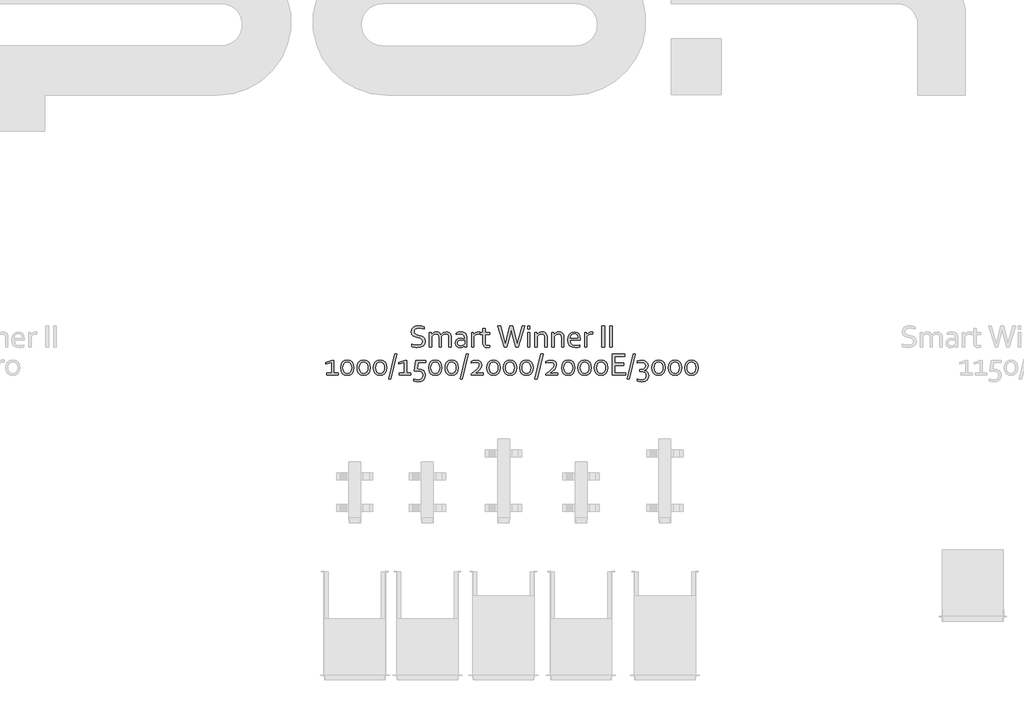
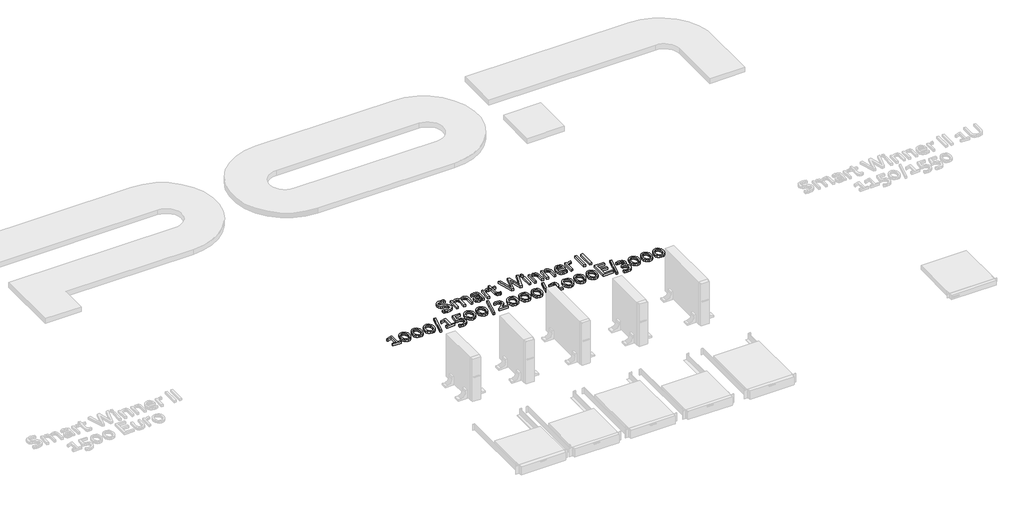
# One storey, part 12 of 14: 1 proxy.
"""IFC4 building model written with IfcOpenShell, lengths in millimetres."""

from ifc_helpers import new_model, si_unit, origin, origin_with_axes, place, context, project, spatial, polyline, outline, extrude, element, save

model = new_model("IFC4")

# Units and contexts
model_context = context("Model", 3, world=origin())
ifc_project = project(units=[si_unit("LENGTHUNIT", "METRE", prefix="MILLI")], contexts=[model_context])

# Site, building, storey
site = spatial("IfcSite", under=ifc_project)
building = spatial("IfcBuilding", under=site)
storey = spatial("IfcBuildingStorey", under=building, Name="Этаж 01", Elevation=0.0)

# Proxy
placement = place(None, origin())
element("IfcBuildingElementProxy", 1, Name="150 мм Corbel", ObjectType="150 мм Corbel", at=placement, inside=storey, context=model_context, shape_type="SweptSolid", body=[
    extrude(outline(polyline([(8243.4945132, 936.8855088), (8246.2289116, 925.8822898), (8253.5570992, 918.7072285), (8264.2321904, 914.0696889), (8276.9197988, 910.6790349), (8294.3980731, 905.9321193), (8309.6888288, 898.757058), (8320.5389215, 886.8350812), (8324.695207, 867.9786701), (8320.2107937, 847.722247), (8307.8294379, 833.7002522), (8289.2792794, 825.5626827), (8265.938455, 822.9157851), (8254.0164781, 823.6376662), (8242.3570035, 825.5845579), (8232.3162927, 828.3845818), (8225.2506073, 831.4908583), (8225.2506073, 848.1160004), (8234.3288099, 844.681596), (8244.763274, 842.0346984), (8255.6352419, 840.3284338), (8265.938455, 839.7159286), (8280.922958, 841.050315), (8293.4136897, 845.5128531), (8301.9450126, 854.0223008), (8305.0950395, 867.5411663), (8302.2950156, 878.7193868), (8294.8355769, 886.0038241), (8284.0729849, 890.6851141), (8271.2322502, 894.0976432), (8253.8196014, 898.6476821), (8238.6600969, 905.7133675), (8227.9412553, 917.3509669), (8223.8943457, 935.5292472), (8228.138132, 955.3481665), (8239.6226051, 969.0857839), (8256.1821216, 977.1139775), (8276.0447913, 979.7171247), (8298.4012323, 977.4202301), (8317.3888945, 971.4483041), (8317.3888945, 954.5169094), (8298.1606053, 960.5107106), (8276.9197988, 962.9169812), (8262.1102973, 961.0794655), (8251.6977083, 955.8512958), (8245.5289056, 947.6262256), (8243.4945132, 936.8855088)])), origin_with_axes(), (0.0, 0.0, 1.0), 20.0),
    extrude(outline(polyline([(8439.4961878, 825.715809), (8422.6960443, 825.715809), (8422.6960443, 894.7976492), (8421.1647812, 906.7196261), (8416.7022431, 914.8134452), (8409.7240584, 919.4509848), (8400.6458559, 920.9166224), (8383.4300838, 915.6884527), (8369.4955897, 901.3164549), (8369.4955897, 825.715809), (8352.6954462, 825.715809), (8352.6954462, 932.116718), (8366.126811, 932.116718), (8369.4518394, 917.3290917), (8376.1456466, 924.1979004), (8383.7363364, 929.8198234), (8392.9457901, 933.5823556), (8403.9271339, 934.916742), (8414.7772266, 933.489386), (8423.6148021, 929.2073182), (8435.6899053, 913.6540603), (8452.3806729, 929.2729438), (8473.6652297, 934.916742), (8485.6090818, 933.3417285), (8497.2029308, 927.5666792), (8505.996756, 915.9728301), (8509.4967859, 896.9414175), (8509.4967859, 825.715809), (8492.6966423, 825.715809), (8492.6966423, 894.7976492), (8491.1653793, 906.7196261), (8486.7247163, 914.8134452), (8479.7684069, 919.4509848), (8470.6902043, 920.9166224), (8453.4525571, 915.6884527), (8439.4961878, 901.3164549), (8439.4961878, 825.715809)])), origin_with_axes(), (0.0, 0.0, 1.0), 20.0),
    extrude(outline(polyline([(8605.2226037, 837.4846595), (8599.4256792, 832.1689891), (8592.0099909, 827.4439487), (8582.8224124, 824.1407955), (8572.1910715, 822.9157851), (8558.1690767, 825.1689293), (8547.2096081, 831.7971109), (8540.056422, 842.450327), (8537.4970251, 856.6910736), (8540.3407994, 870.6911932), (8548.3033674, 881.1694078), (8560.6190977, 887.7975894), (8576.5223585, 890.1163592), (8591.7693638, 888.6288465), (8604.2600955, 885.2600677), (8604.6975993, 892.8726328), (8604.1288444, 901.207079), (8602.203828, 907.5727583), (8592.9287487, 917.132215), (8575.6473511, 920.9166224), (8560.4440962, 919.4291096), (8546.2908502, 915.3165745), (8546.2908502, 929.0104415), (8552.6127793, 931.3948369), (8560.2909699, 933.2979781), (8568.8004176, 934.5011134), (8577.7911194, 934.916742), (8592.4256194, 933.489386), (8604.0413437, 929.2073182), (8612.7039177, 922.5736678), (8618.478967, 914.091564), (8620.7977368, 906.1946216), (8621.4977428, 896.7226656), (8621.4977428, 825.715809), (8607.1038698, 825.715809), (8605.2226037, 837.4846595)]), holes=[polyline([(8604.6975993, 872.1349556), (8593.081875, 874.7381028), (8578.3161239, 876.1162396), (8560.662848, 871.3474488), (8555.8885885, 865.2989597), (8554.2971686, 856.6910736), (8555.8940573, 847.9409989), (8560.2690947, 841.750321), (8566.8535259, 838.1190399), (8574.9910955, 836.9159047), (8585.5786859, 838.5565437), (8594.2850103, 842.4722021), (8600.7600656, 847.022241), (8604.6975993, 850.5660213), (8604.6975993, 872.1349556)])]), origin_with_axes(), (0.0, 0.0, 1.0), 20.0),
    extrude(outline(polyline([(8712.8922737, 920.9166224), (8699.4609089, 919.7572375), (8688.3045636, 916.2353324), (8678.8982332, 910.3946575), (8671.8981734, 902.1914624), (8671.8981734, 825.715809), (8655.0980299, 825.715809), (8655.0980299, 932.116718), (8668.0918909, 932.116718), (8671.3294186, 915.1853234), (8677.9794754, 922.9291396), (8686.4451727, 929.2073182), (8696.7702609, 933.4073541), (8708.5609867, 934.916742), (8710.8360061, 934.8729916), (8712.8922737, 934.7417405), (8712.8922737, 920.9166224)])), origin_with_axes(), (0.0, 0.0, 1.0), 20.0),
    extrude(outline(polyline([(8786.4804024, 825.3220556), (8779.6553441, 823.7470422), (8768.6740002, 822.9157851), (8754.1926265, 825.015803), (8744.1519157, 831.0096042), (8738.2456153, 840.4378098), (8736.2987236, 852.75354), (8736.2987236, 918.1165984), (8715.7797983, 918.1165984), (8715.7797983, 932.116718), (8736.2987236, 932.116718), (8736.2987236, 960.1169573), (8753.0988672, 960.1169573), (8753.0988672, 932.116718), (8784.9053889, 932.116718), (8784.9053889, 918.1165984), (8753.0988672, 918.1165984), (8753.0988672, 854.5035549), (8754.1488761, 847.4816199), (8757.4957797, 841.9034473), (8763.380205, 838.2284159), (8772.042779, 836.9159047), (8779.3709666, 837.4846595), (8786.4804024, 838.9284219), (8786.4804024, 825.3220556)])), origin_with_axes(), (0.0, 0.0, 1.0), 20.0),
    extrude(outline(polyline([(8939.2567077, 951.9356374), (8930.5941337, 915.5353264), (8907.1439333, 825.715809), (8888.4187733, 825.715809), (8842.6996327, 976.9171008), (8862.2998002, 976.9171008), (8886.975011, 888.1913428), (8896.9938466, 849.7785146), (8902.2657666, 870.2318143), (8906.8814311, 887.9725909), (8929.5003743, 976.9171008), (8949.1005418, 976.9171008), (8971.1507302, 887.9725909), (8980.3383087, 849.7785146), (8991.0571503, 888.1913428), (9016.3011159, 976.9171008), (9035.9012834, 976.9171008), (8989.4821368, 825.715809), (8970.7569768, 825.715809), (8947.7880306, 915.5353264), (8939.2567077, 951.9356374)])), origin_with_axes(), (0.0, 0.0, 1.0), 20.0),
    extrude(outline(polyline([(9055.5014509, 957.3169334), (9055.5014509, 976.9171008), (9072.3015944, 976.9171008), (9072.3015944, 957.3169334), (9055.5014509, 957.3169334)])), origin_with_axes(), (0.0, 0.0, 1.0), 20.0),
    extrude(outline(polyline([(9055.5014509, 825.715809), (9055.5014509, 932.116718), (9072.3015944, 932.116718), (9072.3015944, 825.715809), (9055.5014509, 825.715809)])), origin_with_axes(), (0.0, 0.0, 1.0), 20.0),
    extrude(outline(polyline([(9125.4145482, 917.3290917), (9132.1302306, 924.1979004), (9139.9834227, 929.8198234), (9149.499129, 933.5823556), (9160.7648502, 934.916742), (9174.3712165, 932.9042248), (9185.3744355, 926.4072943), (9192.7682486, 914.7040693), (9195.502647, 896.9414175), (9195.502647, 825.715809), (9178.7025035, 825.715809), (9178.7025035, 894.7976492), (9177.3571795, 906.7579076), (9173.3212075, 914.8134452), (9166.714901, 919.3908281), (9157.6585737, 920.9166224), (9140.1146738, 915.6884527), (9125.5020489, 901.3164549), (9125.5020489, 825.715809), (9108.7019054, 825.715809), (9108.7019054, 932.116718), (9122.0457694, 932.116718), (9125.4145482, 917.3290917)])), origin_with_axes(), (0.0, 0.0, 1.0), 20.0),
    extrude(outline(polyline([(9245.8155769, 917.3290917), (9252.5312592, 924.1979004), (9260.3844513, 929.8198234), (9269.9001576, 933.5823556), (9281.1658789, 934.916742), (9294.7722451, 932.9042248), (9305.7754641, 926.4072943), (9313.1692773, 914.7040693), (9315.9036757, 896.9414175), (9315.9036757, 825.715809), (9299.1035321, 825.715809), (9299.1035321, 894.7976492), (9297.7582082, 906.7579076), (9293.7222362, 914.8134452), (9287.1159297, 919.3908281), (9278.0596023, 920.9166224), (9260.5157025, 915.6884527), (9245.9030776, 901.3164549), (9245.9030776, 825.715809), (9229.1029341, 825.715809), (9229.1029341, 932.116718), (9242.4467981, 932.116718), (9245.8155769, 917.3290917)])), origin_with_axes(), (0.0, 0.0, 1.0), 20.0),
    extrude(outline(polyline([(9399.2481378, 836.9159047), (9415.0201475, 838.3815422), (9429.2171438, 842.5159525), (9429.2171438, 828.6908344), (9415.0857731, 824.4689233), (9397.0168687, 822.9157851), (9375.5573104, 825.8251849), (9358.5384149, 835.2315153), (9347.7320726, 852.2066603), (9343.9039149, 877.4725012), (9347.8851989, 902.7164669), (9358.4727894, 920.5666194), (9373.6979195, 931.3292113), (9391.6793231, 934.916742), (9408.173214, 931.9854669), (9421.4733277, 922.7541381), (9430.3765287, 906.5008742), (9433.6359316, 882.6350453), (9433.6359316, 880.381901), (9433.5046804, 876.1162396), (9359.7853006, 876.1162396), (9362.869702, 857.9160841), (9371.2916489, 845.7972306), (9383.8042558, 839.0377978), (9399.2481378, 836.9159047)]), holes=[polyline([(9390.9355667, 920.9166224), (9379.4292184, 918.4884766), (9370.1541392, 911.8821702), (9363.7228342, 902.1039616), (9360.7040584, 890.1163592), (9416.7045369, 890.1163592), (9415.0201475, 902.2133376), (9410.0544801, 911.9915461), (9402.0044113, 918.532227), (9390.9355667, 920.9166224)])]), origin_with_axes(), (0.0, 0.0, 1.0), 20.0),
    extrude(outline(polyline([(9522.0991874, 920.9166224), (9508.6678226, 919.7572375), (9497.5114773, 916.2353324), (9488.1051469, 910.3946575), (9481.1050871, 902.1914624), (9481.1050871, 825.715809), (9464.3049436, 825.715809), (9464.3049436, 932.116718), (9477.2988046, 932.116718), (9480.5363323, 915.1853234), (9487.1863891, 922.9291396), (9495.6520864, 929.2073182), (9505.9771746, 933.4073541), (9517.7679004, 934.916742), (9520.0429198, 934.8729916), (9522.0991874, 934.7417405), (9522.0991874, 920.9166224)])), origin_with_axes(), (0.0, 0.0, 1.0), 20.0),
    extrude(outline(polyline([(9587.5059962, 825.715809), (9587.5059962, 976.9171008), (9607.1061637, 976.9171008), (9607.1061637, 825.715809), (9587.5059962, 825.715809)])), origin_with_axes(), (0.0, 0.0, 1.0), 20.0),
    extrude(outline(polyline([(9643.5064747, 825.715809), (9643.5064747, 976.9171008), (9663.1066421, 976.9171008), (9663.1066421, 825.715809), (9643.5064747, 825.715809)])), origin_with_axes(), (0.0, 0.0, 1.0), 20.0),
    extrude(outline(polyline([(7652.6894655, 639.315498), (7652.6894655, 717.7161678), (7612.2203697, 703.7160482), (7612.2203697, 717.7161678), (7654.9644849, 731.7162874), (7669.489609, 731.7162874), (7669.489609, 639.315498), (7698.8461098, 639.315498), (7698.8461098, 625.3153784), (7616.9016597, 625.3153784), (7616.9016597, 639.315498), (7652.6894655, 639.315498)])), origin_with_axes(), (0.0, 0.0, 1.0), 20.0),
    extrude(outline(polyline([(7812.2908291, 678.3845818), (7809.0751766, 656.290643), (7799.7344718, 638.5498664), (7784.8374695, 626.7810159), (7764.7779231, 622.5153544), (7744.3246234, 626.7810159), (7729.3619955, 638.5498664), (7720.1962922, 656.290643), (7717.0900157, 678.3845818), (7720.3056682, 700.6316469), (7729.646373, 718.438049), (7744.6090008, 730.2506499), (7764.6904224, 734.5163114), (7785.0562214, 730.2506499), (7800.0188492, 718.438049), (7809.1845525, 700.6316469), (7812.2908291, 678.3845818)]), holes=[polyline([(7795.4906855, 678.3845818), (7793.3031669, 696.0378576), (7787.112489, 709.2723457), (7777.4436563, 717.6067919), (7764.6904224, 720.5161917), (7751.9371884, 717.6067919), (7742.2246054, 709.2723457), (7736.0339276, 696.0378576), (7733.8901592, 678.3845818), (7736.0776779, 660.8844323), (7742.2683558, 647.6936946), (7752.002814, 639.4248739), (7764.8216735, 636.5154741), (7777.5530323, 639.4248739), (7787.2218649, 647.6936946), (7793.3469172, 660.8844323), (7795.4906855, 678.3845818)])]), origin_with_axes(), (0.0, 0.0, 1.0), 20.0),
    extrude(outline(polyline([(7929.8918338, 678.3845818), (7926.6761814, 656.290643), (7917.3354766, 638.5498664), (7902.4384743, 626.7810159), (7882.3789279, 622.5153544), (7861.9256281, 626.7810159), (7846.9630003, 638.5498664), (7837.797297, 656.290643), (7834.6910205, 678.3845818), (7837.9066729, 700.6316469), (7847.2473777, 718.438049), (7862.2100056, 730.2506499), (7882.2914272, 734.5163114), (7902.6572262, 730.2506499), (7917.619854, 718.438049), (7926.7855573, 700.6316469), (7929.8918338, 678.3845818)]), holes=[polyline([(7913.0916903, 678.3845818), (7910.9041716, 696.0378576), (7904.7134937, 709.2723457), (7895.0446611, 717.6067919), (7882.2914272, 720.5161917), (7869.5381932, 717.6067919), (7859.8256102, 709.2723457), (7853.6349323, 696.0378576), (7851.491164, 678.3845818), (7853.6786827, 660.8844323), (7859.8693606, 647.6936946), (7869.6038187, 639.4248739), (7882.4226783, 636.5154741), (7895.154037, 639.4248739), (7904.8228697, 647.6936946), (7910.947922, 660.8844323), (7913.0916903, 678.3845818)])]), origin_with_axes(), (0.0, 0.0, 1.0), 20.0),
    extrude(outline(polyline([(8047.4928386, 678.3845818), (8044.2771861, 656.290643), (8034.9364813, 638.5498664), (8020.039479, 626.7810159), (7999.9799327, 622.5153544), (7979.5266329, 626.7810159), (7964.5640051, 638.5498664), (7955.3983018, 656.290643), (7952.2920252, 678.3845818), (7955.5076777, 700.6316469), (7964.8483825, 718.438049), (7979.8110103, 730.2506499), (7999.8924319, 734.5163114), (8020.2582309, 730.2506499), (8035.2208588, 718.438049), (8044.3865621, 700.6316469), (8047.4928386, 678.3845818)]), holes=[polyline([(8030.6926951, 678.3845818), (8028.5051764, 696.0378576), (8022.3144985, 709.2723457), (8012.6456659, 717.6067919), (7999.8924319, 720.5161917), (7987.139198, 717.6067919), (7977.426615, 709.2723457), (7971.2359371, 696.0378576), (7969.0921688, 678.3845818), (7971.2796875, 660.8844323), (7977.4703653, 647.6936946), (7987.2048235, 639.4248739), (8000.023683, 636.5154741), (8012.7550418, 639.4248739), (8022.4238744, 647.6936946), (8028.5489267, 660.8844323), (8030.6926951, 678.3845818)])]), origin_with_axes(), (0.0, 0.0, 1.0), 20.0),
    extrude(outline(polyline([(8060.7054515, 597.3151391), (8103.3183156, 776.5166702), (8119.8997072, 776.5166702), (8077.2868432, 597.3151391), (8060.7054515, 597.3151391)])), origin_with_axes(), (0.0, 0.0, 1.0), 20.0),
    extrude(outline(polyline([(8173.4939151, 639.315498), (8173.4939151, 717.7161678), (8133.0248194, 703.7160482), (8133.0248194, 717.7161678), (8175.7689346, 731.7162874), (8190.2940587, 731.7162874), (8190.2940587, 639.315498), (8219.6505595, 639.315498), (8219.6505595, 625.3153784), (8137.7061094, 625.3153784), (8137.7061094, 639.315498), (8173.4939151, 639.315498)])), origin_with_axes(), (0.0, 0.0, 1.0), 20.0),
    extrude(outline(polyline([(8324.695207, 625.4466295), (8321.2170523, 606.3933417), (8311.0232152, 591.2775876), (8294.0918205, 581.3025023), (8270.8822472, 577.7149717), (8254.6289833, 579.2024844), (8240.7382397, 583.7525233), (8240.7382397, 597.3151391), (8256.4227487, 592.8744762), (8270.0947405, 591.7150913), (8286.6980073, 594.3401137), (8298.4668579, 601.4932998), (8305.5325432, 612.0371399), (8307.8950634, 624.6591228), (8305.4012921, 638.5936168), (8297.5918504, 648.3718254), (8283.9417338, 654.1906251), (8263.838437, 656.1156415), (8244.0632681, 654.9781318), (8254.6946089, 731.7162874), (8325.7452159, 731.7162874), (8325.7452159, 717.7161678), (8271.4947524, 717.7161678), (8265.238449, 669.8970093), (8271.4947524, 670.1157611), (8294.2449468, 667.0969853), (8310.9357144, 658.3687858), (8321.1951771, 644.3686662), (8324.695207, 625.4466295)])), origin_with_axes(), (0.0, 0.0, 1.0), 20.0),
    extrude(outline(polyline([(8442.2962117, 678.3845818), (8439.0805593, 656.290643), (8429.7398545, 638.5498664), (8414.8428522, 626.7810159), (8394.7833058, 622.5153544), (8374.330006, 626.7810159), (8359.3673782, 638.5498664), (8350.2016749, 656.290643), (8347.0953984, 678.3845818), (8350.3110508, 700.6316469), (8359.6517556, 718.438049), (8374.6143835, 730.2506499), (8394.695805, 734.5163114), (8415.061604, 730.2506499), (8430.0242319, 718.438049), (8439.1899352, 700.6316469), (8442.2962117, 678.3845818)]), holes=[polyline([(8425.4960682, 678.3845818), (8423.3085495, 696.0378576), (8417.1178716, 709.2723457), (8407.449039, 717.6067919), (8394.695805, 720.5161917), (8381.9425711, 717.6067919), (8372.2299881, 709.2723457), (8366.0393102, 696.0378576), (8363.8955419, 678.3845818), (8366.0830606, 660.8844323), (8372.2737385, 647.6936946), (8382.0081966, 639.4248739), (8394.8270562, 636.5154741), (8407.5584149, 639.4248739), (8417.2272475, 647.6936946), (8423.3522999, 660.8844323), (8425.4960682, 678.3845818)])]), origin_with_axes(), (0.0, 0.0, 1.0), 20.0),
    extrude(outline(polyline([(8559.8972165, 678.3845818), (8556.681564, 656.290643), (8547.3408592, 638.5498664), (8532.4438569, 626.7810159), (8512.3843106, 622.5153544), (8491.9310108, 626.7810159), (8476.968383, 638.5498664), (8467.8026797, 656.290643), (8464.6964031, 678.3845818), (8467.9120556, 700.6316469), (8477.2527604, 718.438049), (8492.2153882, 730.2506499), (8512.2968098, 734.5163114), (8532.6626088, 730.2506499), (8547.6252366, 718.438049), (8556.79094, 700.6316469), (8559.8972165, 678.3845818)]), holes=[polyline([(8543.097073, 678.3845818), (8540.9095543, 696.0378576), (8534.7188764, 709.2723457), (8525.0500438, 717.6067919), (8512.2968098, 720.5161917), (8499.5435758, 717.6067919), (8489.8309929, 709.2723457), (8483.640315, 696.0378576), (8481.4965467, 678.3845818), (8483.6840653, 660.8844323), (8489.8747432, 647.6936946), (8499.6092014, 639.4248739), (8512.4280609, 636.5154741), (8525.1594197, 639.4248739), (8534.8282523, 647.6936946), (8540.9533046, 660.8844323), (8543.097073, 678.3845818)])]), origin_with_axes(), (0.0, 0.0, 1.0), 20.0),
    extrude(outline(polyline([(8573.1098294, 597.3151391), (8615.7226935, 776.5166702), (8632.3040851, 776.5166702), (8589.6912211, 597.3151391), (8573.1098294, 597.3151391)])), origin_with_axes(), (0.0, 0.0, 1.0), 20.0),
    extrude(outline(polyline([(8680.0794933, 638.8779942), (8703.2671914, 639.315498), (8736.9549792, 639.315498), (8736.9549792, 625.3153784), (8651.6855007, 625.3153784), (8651.6855007, 634.8529599), (8675.4638289, 652.6374868), (8694.2327392, 668.4532469), (8706.614095, 683.1971229), (8711.0985083, 697.6347462), (8709.5289637, 706.2426323), (8704.8203297, 712.5536237), (8697.1694831, 716.4255318), (8686.7733005, 717.7161678), (8669.7981555, 716.1192792), (8652.8230104, 712.11612), (8652.8230104, 724.1912231), (8668.573145, 729.4631432), (8689.1358207, 731.7162874), (8705.2797086, 729.4850184), (8717.5079381, 722.9880879), (8725.1861287, 712.4442478), (8727.8986519, 697.9409989), (8724.3548716, 681.5783591), (8714.5547879, 666.9657342), (8699.3296578, 653.1406161), (8680.0794933, 638.8779942)])), origin_with_axes(), (0.0, 0.0, 1.0), 20.0),
    extrude(outline(polyline([(8859.4997762, 678.3845818), (8856.2841238, 656.290643), (8846.943419, 638.5498664), (8832.0464167, 626.7810159), (8811.9868703, 622.5153544), (8791.5335706, 626.7810159), (8776.5709427, 638.5498664), (8767.4052394, 656.290643), (8764.2989629, 678.3845818), (8767.5146153, 700.6316469), (8776.8553201, 718.438049), (8791.817948, 730.2506499), (8811.8993696, 734.5163114), (8832.2651686, 730.2506499), (8847.2277964, 718.438049), (8856.3934997, 700.6316469), (8859.4997762, 678.3845818)]), holes=[polyline([(8842.6996327, 678.3845818), (8840.512114, 696.0378576), (8834.3214361, 709.2723457), (8824.6526035, 717.6067919), (8811.8993696, 720.5161917), (8799.1461356, 717.6067919), (8789.4335526, 709.2723457), (8783.2428747, 696.0378576), (8781.0991064, 678.3845818), (8783.2866251, 660.8844323), (8789.477303, 647.6936946), (8799.2117612, 639.4248739), (8812.0306207, 636.5154741), (8824.7619795, 639.4248739), (8834.4308121, 647.6936946), (8840.5558644, 660.8844323), (8842.6996327, 678.3845818)])]), origin_with_axes(), (0.0, 0.0, 1.0), 20.0),
    extrude(outline(polyline([(8977.100781, 678.3845818), (8973.8851285, 656.290643), (8964.5444237, 638.5498664), (8949.6474215, 626.7810159), (8929.5878751, 622.5153544), (8909.1345753, 626.7810159), (8894.1719475, 638.5498664), (8885.0062442, 656.290643), (8881.8999676, 678.3845818), (8885.1156201, 700.6316469), (8894.4563249, 718.438049), (8909.4189527, 730.2506499), (8929.5003743, 734.5163114), (8949.8661733, 730.2506499), (8964.8288012, 718.438049), (8973.9945045, 700.6316469), (8977.100781, 678.3845818)]), holes=[polyline([(8960.3006375, 678.3845818), (8958.1131188, 696.0378576), (8951.9224409, 709.2723457), (8942.2536083, 717.6067919), (8929.5003743, 720.5161917), (8916.7471404, 717.6067919), (8907.0345574, 709.2723457), (8900.8438795, 696.0378576), (8898.7001112, 678.3845818), (8900.8876299, 660.8844323), (8907.0783077, 647.6936946), (8916.8127659, 639.4248739), (8929.6316254, 636.5154741), (8942.3629842, 639.4248739), (8952.0318168, 647.6936946), (8958.1568692, 660.8844323), (8960.3006375, 678.3845818)])]), origin_with_axes(), (0.0, 0.0, 1.0), 20.0),
    extrude(outline(polyline([(9094.7017858, 678.3845818), (9091.4861333, 656.290643), (9082.1454285, 638.5498664), (9067.2484262, 626.7810159), (9047.1888798, 622.5153544), (9026.7355801, 626.7810159), (9011.7729522, 638.5498664), (9002.6072489, 656.290643), (8999.5009724, 678.3845818), (9002.7166249, 700.6316469), (9012.0573297, 718.438049), (9027.0199575, 730.2506499), (9047.1013791, 734.5163114), (9067.4671781, 730.2506499), (9082.4298059, 718.438049), (9091.5955092, 700.6316469), (9094.7017858, 678.3845818)]), holes=[polyline([(9077.9016422, 678.3845818), (9075.7141235, 696.0378576), (9069.5234457, 709.2723457), (9059.854613, 717.6067919), (9047.1013791, 720.5161917), (9034.3481451, 717.6067919), (9024.6355621, 709.2723457), (9018.4448842, 696.0378576), (9016.3011159, 678.3845818), (9018.4886346, 660.8844323), (9024.6793125, 647.6936946), (9034.4137707, 639.4248739), (9047.2326302, 636.5154741), (9059.963989, 639.4248739), (9069.6328216, 647.6936946), (9075.7578739, 660.8844323), (9077.9016422, 678.3845818)])]), origin_with_axes(), (0.0, 0.0, 1.0), 20.0),
    extrude(outline(polyline([(9107.9143987, 597.3151391), (9150.5272627, 776.5166702), (9167.1086544, 776.5166702), (9124.4957903, 597.3151391), (9107.9143987, 597.3151391)])), origin_with_axes(), (0.0, 0.0, 1.0), 20.0),
    extrude(outline(polyline([(9214.8840626, 638.8779942), (9238.0717607, 639.315498), (9271.7595485, 639.315498), (9271.7595485, 625.3153784), (9186.49007, 625.3153784), (9186.49007, 634.8529599), (9210.2683982, 652.6374868), (9229.0373085, 668.4532469), (9241.4186643, 683.1971229), (9245.9030776, 697.6347462), (9244.3335329, 706.2426323), (9239.624899, 712.5536237), (9231.9740524, 716.4255318), (9221.5778698, 717.7161678), (9204.6027247, 716.1192792), (9187.6275797, 712.11612), (9187.6275797, 724.1912231), (9203.3777143, 729.4631432), (9223.94039, 731.7162874), (9240.0842779, 729.4850184), (9252.3125074, 722.9880879), (9259.990698, 712.4442478), (9262.7032211, 697.9409989), (9259.1594409, 681.5783591), (9249.3593571, 666.9657342), (9234.1342271, 653.1406161), (9214.8840626, 638.8779942)])), origin_with_axes(), (0.0, 0.0, 1.0), 20.0),
    extrude(outline(polyline([(9394.3043455, 678.3845818), (9391.088693, 656.290643), (9381.7479882, 638.5498664), (9366.850986, 626.7810159), (9346.7914396, 622.5153544), (9326.3381398, 626.7810159), (9311.375512, 638.5498664), (9302.2098087, 656.290643), (9299.1035321, 678.3845818), (9302.3191846, 700.6316469), (9311.6598894, 718.438049), (9326.6225173, 730.2506499), (9346.7039388, 734.5163114), (9367.0697378, 730.2506499), (9382.0323657, 718.438049), (9391.198069, 700.6316469), (9394.3043455, 678.3845818)]), holes=[polyline([(9377.504202, 678.3845818), (9375.3166833, 696.0378576), (9369.1260054, 709.2723457), (9359.4571728, 717.6067919), (9346.7039388, 720.5161917), (9333.9507049, 717.6067919), (9324.2381219, 709.2723457), (9318.047444, 696.0378576), (9315.9036757, 678.3845818), (9318.0911944, 660.8844323), (9324.2818723, 647.6936946), (9334.0163304, 639.4248739), (9346.83519, 636.5154741), (9359.5665487, 639.4248739), (9369.2353813, 647.6936946), (9375.3604337, 660.8844323), (9377.504202, 678.3845818)])]), origin_with_axes(), (0.0, 0.0, 1.0), 20.0),
    extrude(outline(polyline([(9511.9053503, 678.3845818), (9508.6896978, 656.290643), (9499.348993, 638.5498664), (9484.4519907, 626.7810159), (9464.3924443, 622.5153544), (9443.9391446, 626.7810159), (9428.9765168, 638.5498664), (9419.8108134, 656.290643), (9416.7045369, 678.3845818), (9419.9201894, 700.6316469), (9429.2608942, 718.438049), (9444.223522, 730.2506499), (9464.3049436, 734.5163114), (9484.6707426, 730.2506499), (9499.6333704, 718.438049), (9508.7990737, 700.6316469), (9511.9053503, 678.3845818)]), holes=[polyline([(9495.1052067, 678.3845818), (9492.9176881, 696.0378576), (9486.7270102, 709.2723457), (9477.0581776, 717.6067919), (9464.3049436, 720.5161917), (9451.5517096, 717.6067919), (9441.8391267, 709.2723457), (9435.6484488, 696.0378576), (9433.5046804, 678.3845818), (9435.6921991, 660.8844323), (9441.882877, 647.6936946), (9451.6173352, 639.4248739), (9464.4361947, 636.5154741), (9477.1675535, 639.4248739), (9486.8363861, 647.6936946), (9492.9614384, 660.8844323), (9495.1052067, 678.3845818)])]), origin_with_axes(), (0.0, 0.0, 1.0), 20.0),
    extrude(outline(polyline([(9629.506355, 678.3845818), (9626.2907026, 656.290643), (9616.9499978, 638.5498664), (9602.0529955, 626.7810159), (9581.9934491, 622.5153544), (9561.5401494, 626.7810159), (9546.5775215, 638.5498664), (9537.4118182, 656.290643), (9534.3055417, 678.3845818), (9537.5211941, 700.6316469), (9546.8618989, 718.438049), (9561.8245268, 730.2506499), (9581.9059484, 734.5163114), (9602.2717474, 730.2506499), (9617.2343752, 718.438049), (9626.4000785, 700.6316469), (9629.506355, 678.3845818)]), holes=[polyline([(9612.7062115, 678.3845818), (9610.5186928, 696.0378576), (9604.3280149, 709.2723457), (9594.6591823, 717.6067919), (9581.9059484, 720.5161917), (9569.1527144, 717.6067919), (9559.4401314, 709.2723457), (9553.2494535, 696.0378576), (9551.1056852, 678.3845818), (9553.2932039, 660.8844323), (9559.4838818, 647.6936946), (9569.21834, 639.4248739), (9582.0371995, 636.5154741), (9594.7685583, 639.4248739), (9604.4373909, 647.6936946), (9610.5624432, 660.8844323), (9612.7062115, 678.3845818)])]), origin_with_axes(), (0.0, 0.0, 1.0), 20.0),
    extrude(outline(polyline([(9679.9067857, 642.1155219), (9756.8199428, 642.1155219), (9756.8199428, 625.3153784), (9660.3066182, 625.3153784), (9660.3066182, 776.5166702), (9752.6636573, 776.5166702), (9752.6636573, 759.7165267), (9679.9067857, 759.7165267), (9679.9067857, 712.11612), (9744.6135885, 712.11612), (9744.6135885, 695.3159764), (9679.9067857, 695.3159764), (9679.9067857, 642.1155219)])), origin_with_axes(), (0.0, 0.0, 1.0), 20.0),
    extrude(outline(polyline([(9768.7200445, 597.3151391), (9811.3329085, 776.5166702), (9827.9143002, 776.5166702), (9785.3014361, 597.3151391), (9768.7200445, 597.3151391)])), origin_with_axes(), (0.0, 0.0, 1.0), 20.0),
    extrude(outline(polyline([(9892.2273497, 658.5219121), (9903.6024469, 655.3937604), (9913.2275291, 648.678078), (9920.468216, 637.9373612), (9923.508867, 622.9966086), (9920.2932145, 604.3151989), (9910.755633, 590.0088267), (9894.5242443, 580.908749), (9871.6209236, 577.7149717), (9854.2739004, 579.2462348), (9839.6394004, 583.7525233), (9839.6394004, 597.3151391), (9855.5864116, 593.0276025), (9870.3521628, 591.7150913), (9887.6335604, 594.2963633), (9898.7899058, 601.0995465), (9904.8493325, 610.877755), (9906.7087234, 622.4716041), (9904.2532337, 635.2740572), (9896.8867645, 643.9311624), (9885.1233827, 648.8694859), (9869.4771553, 650.5155937), (9857.5770536, 650.5155937), (9857.5770536, 664.5157133), (9864.5333631, 664.5157133), (9881.0928796, 666.703232), (9892.4679767, 672.7407836), (9899.0305328, 681.8189861), (9901.1086756, 693.0847074), (9898.8117809, 704.1098016), (9892.5336023, 711.766117), (9883.1710223, 716.2505303), (9871.6209236, 717.7161678), (9856.2426672, 716.2067799), (9840.995662, 712.11612), (9840.995662, 725.5912351), (9858.5395619, 730.381901), (9873.2834378, 731.7162874), (9892.6867286, 728.850638), (9906.6430979, 720.8224444), (9914.9994193, 708.6160901), (9917.9088191, 693.0847074), (9916.5525575, 682.1908643), (9912.1118946, 672.3907806), (9904.1493265, 664.362587), (9892.2273497, 658.5219121)])), origin_with_axes(), (0.0, 0.0, 1.0), 20.0),
    extrude(outline(polyline([(10041.1098717, 678.3845818), (10037.8942192, 656.290643), (10028.5535144, 638.5498664), (10013.6565122, 626.7810159), (9993.5969658, 622.5153544), (9973.143666, 626.7810159), (9958.1810382, 638.5498664), (9949.0153349, 656.290643), (9945.9090583, 678.3845818), (9949.1247108, 700.6316469), (9958.4654156, 718.438049), (9973.4280435, 730.2506499), (9993.509465, 734.5163114), (10013.875264, 730.2506499), (10028.8378919, 718.438049), (10038.0035952, 700.6316469), (10041.1098717, 678.3845818)]), holes=[polyline([(10024.3097282, 678.3845818), (10022.1222095, 696.0378576), (10015.9315316, 709.2723457), (10006.262699, 717.6067919), (9993.509465, 720.5161917), (9980.7562311, 717.6067919), (9971.0436481, 709.2723457), (9964.8529702, 696.0378576), (9962.7092019, 678.3845818), (9964.8967206, 660.8844323), (9971.0873985, 647.6936946), (9980.8218566, 639.4248739), (9993.6407161, 636.5154741), (10006.3720749, 639.4248739), (10016.0409075, 647.6936946), (10022.1659599, 660.8844323), (10024.3097282, 678.3845818)])]), origin_with_axes(), (0.0, 0.0, 1.0), 20.0),
    extrude(outline(polyline([(10158.7108765, 678.3845818), (10155.495224, 656.290643), (10146.1545192, 638.5498664), (10131.2575169, 626.7810159), (10111.1979705, 622.5153544), (10090.7446708, 626.7810159), (10075.7820429, 638.5498664), (10066.6163396, 656.290643), (10063.5100631, 678.3845818), (10066.7257156, 700.6316469), (10076.0664204, 718.438049), (10091.0290482, 730.2506499), (10111.1104698, 734.5163114), (10131.4762688, 730.2506499), (10146.4388966, 718.438049), (10155.6045999, 700.6316469), (10158.7108765, 678.3845818)]), holes=[polyline([(10141.9107329, 678.3845818), (10139.7232143, 696.0378576), (10133.5325364, 709.2723457), (10123.8637038, 717.6067919), (10111.1104698, 720.5161917), (10098.3572358, 717.6067919), (10088.6446528, 709.2723457), (10082.453975, 696.0378576), (10080.3102066, 678.3845818), (10082.4977253, 660.8844323), (10088.6884032, 647.6936946), (10098.4228614, 639.4248739), (10111.2417209, 636.5154741), (10123.9730797, 639.4248739), (10133.6419123, 647.6936946), (10139.7669646, 660.8844323), (10141.9107329, 678.3845818)])]), origin_with_axes(), (0.0, 0.0, 1.0), 20.0),
    extrude(outline(polyline([(10276.3118812, 678.3845818), (10273.0962288, 656.290643), (10263.755524, 638.5498664), (10248.8585217, 626.7810159), (10228.7989753, 622.5153544), (10208.3456755, 626.7810159), (10193.3830477, 638.5498664), (10184.2173444, 656.290643), (10181.1110679, 678.3845818), (10184.3267203, 700.6316469), (10193.6674251, 718.438049), (10208.630053, 730.2506499), (10228.7114746, 734.5163114), (10249.0772736, 730.2506499), (10264.0399014, 718.438049), (10273.2056047, 700.6316469), (10276.3118812, 678.3845818)]), holes=[polyline([(10259.5117377, 678.3845818), (10257.324219, 696.0378576), (10251.1335411, 709.2723457), (10241.4647085, 717.6067919), (10228.7114746, 720.5161917), (10215.9582406, 717.6067919), (10206.2456576, 709.2723457), (10200.0549797, 696.0378576), (10197.9112114, 678.3845818), (10200.0987301, 660.8844323), (10206.289408, 647.6936946), (10216.0238662, 639.4248739), (10228.8427257, 636.5154741), (10241.5740844, 639.4248739), (10251.2429171, 647.6936946), (10257.3679694, 660.8844323), (10259.5117377, 678.3845818)])]), origin_with_axes(), (0.0, 0.0, 1.0), 20.0),
])

save(model, "model.ifc")
